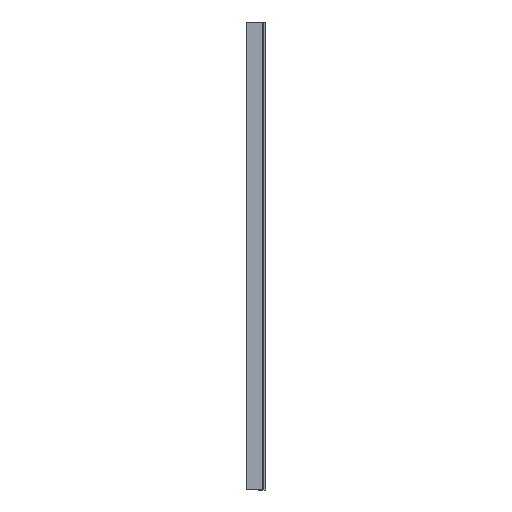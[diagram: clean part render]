
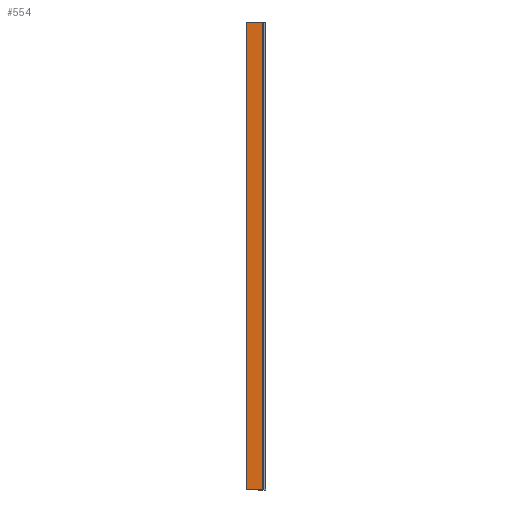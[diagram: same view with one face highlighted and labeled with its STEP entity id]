
A CAD part, left-side view. The second image highlights one B-rep face of the part: STEP entity #554.
In plain terms, the highlighted planar face has unit normal (-1, 0, 0).
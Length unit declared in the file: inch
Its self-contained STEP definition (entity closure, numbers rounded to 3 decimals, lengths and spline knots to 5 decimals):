
#1 = CARTESIAN_POINT ( 'NONE',  ( 0., 0.03937, 0. ) ) ;
#37 = VERTEX_POINT ( 'NONE', #258 ) ;
#46 = CARTESIAN_POINT ( 'NONE',  ( 0., 0.03937, 78.74016 ) ) ;
#65 = DIRECTION ( 'NONE',  ( 0., -1., 0. ) ) ;
#73 = LINE ( 'NONE', #231, #380 ) ;
#89 = LINE ( 'NONE', #692, #140 ) ;
#103 = VERTEX_POINT ( 'NONE', #300 ) ;
#112 = LINE ( 'NONE', #46, #435 ) ;
#122 = ORIENTED_EDGE ( 'NONE', *, *, #630, .T. ) ;
#140 = VECTOR ( 'NONE', #309, 39.37008 ) ;
#209 = EDGE_CURVE ( 'NONE', #37, #691, #89, .T. ) ;
#231 = CARTESIAN_POINT ( 'NONE',  ( 0., 2.75, 78.74016 ) ) ;
#233 = VECTOR ( 'NONE', #65, 39.37008 ) ;
#258 = CARTESIAN_POINT ( 'NONE',  ( 0., 2.75, 78.74016 ) ) ;
#300 = CARTESIAN_POINT ( 'NONE',  ( 0., 2.75, 0. ) ) ;
#309 = DIRECTION ( 'NONE',  ( 0., -1., 0. ) ) ;
#345 = PLANE ( 'NONE',  #361 ) ;
#355 = ORIENTED_EDGE ( 'NONE', *, *, #584, .T. ) ;
#356 = CARTESIAN_POINT ( 'NONE',  ( 0., 0.03937, 78.74016 ) ) ;
#361 = AXIS2_PLACEMENT_3D ( 'NONE', #659, #724, #400 ) ;
#375 = EDGE_CURVE ( 'NONE', #691, #561, #112, .T. ) ;
#380 = VECTOR ( 'NONE', #671, 39.37008 ) ;
#390 = DIRECTION ( 'NONE',  ( 0., 0., -1. ) ) ;
#394 = LINE ( 'NONE', #510, #233 ) ;
#400 = DIRECTION ( 'NONE',  ( 0., 0., -1. ) ) ;
#405 = FACE_OUTER_BOUND ( 'NONE', #615, .T. ) ;
#408 = ORIENTED_EDGE ( 'NONE', *, *, #375, .F. ) ;
#431 = ORIENTED_EDGE ( 'NONE', *, *, #209, .F. ) ;
#435 = VECTOR ( 'NONE', #390, 39.37008 ) ;
#510 = CARTESIAN_POINT ( 'NONE',  ( 0., 0.03937, 0. ) ) ;
#554 = ADVANCED_FACE ( 'NONE', ( #405 ), #345, .F. ) ;
#561 = VERTEX_POINT ( 'NONE', #1 ) ;
#584 = EDGE_CURVE ( 'NONE', #103, #561, #394, .T. ) ;
#615 = EDGE_LOOP ( 'NONE', ( #355, #408, #431, #122 ) ) ;
#630 = EDGE_CURVE ( 'NONE', #37, #103, #73, .T. ) ;
#659 = CARTESIAN_POINT ( 'NONE',  ( 0., 0.03937, 78.74016 ) ) ;
#671 = DIRECTION ( 'NONE',  ( 0., 0., -1. ) ) ;
#691 = VERTEX_POINT ( 'NONE', #356 ) ;
#692 = CARTESIAN_POINT ( 'NONE',  ( 0., 0.03937, 78.74016 ) ) ;
#724 = DIRECTION ( 'NONE',  ( 1., 0., 0. ) ) ;
